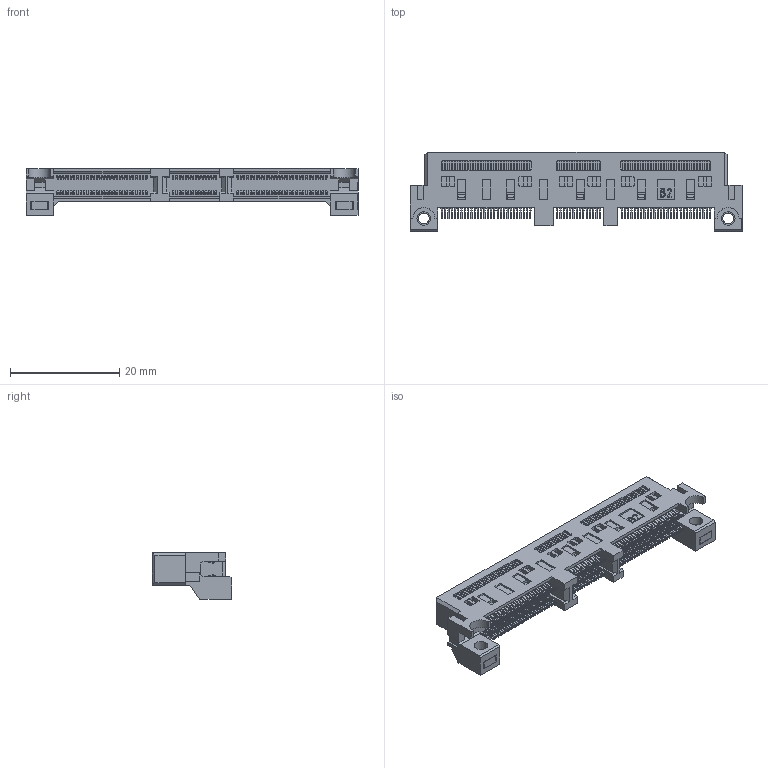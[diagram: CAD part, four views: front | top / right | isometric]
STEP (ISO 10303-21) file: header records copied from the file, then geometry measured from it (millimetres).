
FILE_DESCRIPTION (( 'STEP AP203' ), '1' );
FILE_NAME ('S-52727-140xx-xxx rev-A.STEP', '2021-08-03T07:18:07', ( '' ), ( '' ), 'SwSTEP 2.0', 'SolidWorks 2012', '' );
FILE_SCHEMA (( 'CONFIG_CONTROL_DESIGN' ));
Products named in the file (1): S-52727-140xx-xxx rev-A
Bounding box: 60.81 x 14.58 x 8.6 mm (x, y, z)
Volume: 2884.4 mm3; surface area: 4279.5 mm2
Topology: 1 solids, 1 shells, 9296 faces, 24880 edges, 15928 vertices
Faces by surface type: plane 5163, cylinder 2990, bspline 863, cone 280
Entity records: 326267 total; most frequent: CARTESIAN_POINT 101264, ORIENTED_EDGE 49760, DIRECTION 42728, EDGE_CURVE 24880, LINE 17260, VECTOR 17260, VERTEX_POINT 15928, AXIS2_PLACEMENT_3D 12734
